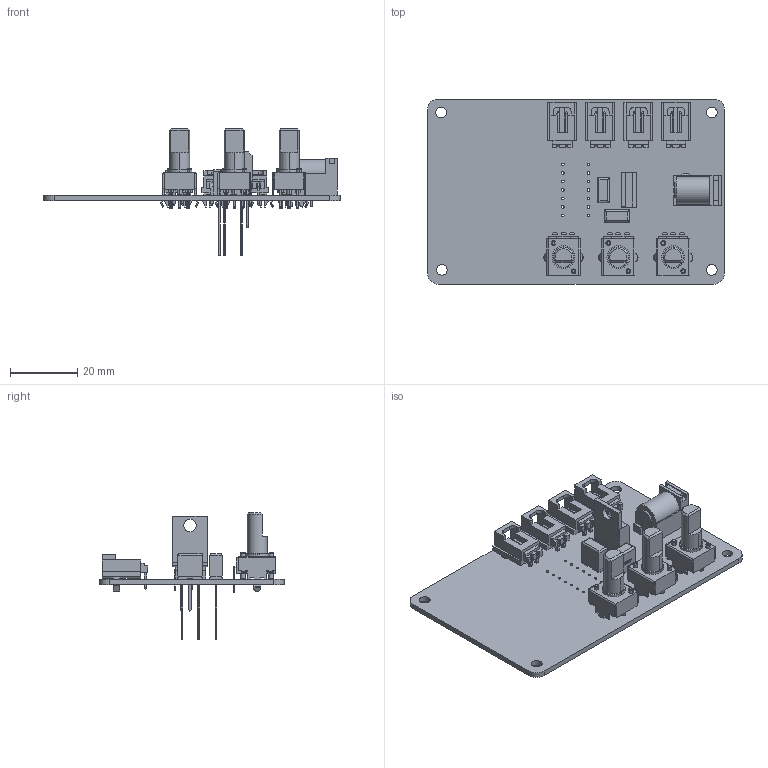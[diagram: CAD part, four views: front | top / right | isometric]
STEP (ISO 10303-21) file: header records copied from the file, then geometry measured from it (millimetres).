
FILE_DESCRIPTION(('KiCad electronic assembly'),'2;1');
FILE_NAME('kraken-pwm-controller.step','2024-07-29T20:28:34',('Pcbnew'), ('Kicad'),'Open CASCADE STEP processor 7.6','KiCad to STEP converter', 'Unknown');
FILE_SCHEMA(('AUTOMOTIVE_DESIGN { 1 0 10303 214 1 1 1 1 }'));
Length unit declared in the file: millimetre
Products named in the file (12): kraken-pwm-controller 1; PTV09A-4020F-B104; ptv09a-4x20f-xxxx; 705510001; PJ-102AH; CFR_RB3_7.2X7.5X3.5_L7.4H7.6T3.6S5LL18F0.55; TO-220-3_Vertical; kraken-pwm-controller_PCB
Assembly tree (17 placements, depth 3):
  kraken-pwm-controller 1
    PTV09A-4020F-B104  x3
      ptv09a-4x20f-xxxx
    705510001  x4
      705510001
    PJ-102AH
      PJ-102AH
    CFR_RB3_7.2X7.5X3.5_L7.4H7.6T3.6S5LL18F0.55  x2
      CFR_RB3_7.2X7.5X3.5_L7.4H7.6T3.6S5LL18F0.55
    TO-220-3_Vertical
      TO-220-3_Vertical
    kraken-pwm-controller_PCB
Bounding box: 88.65 x 55.07 x 37.85 mm (x, y, z)
Volume: 13001 mm3; surface area: 19629 mm2
Topology: 25 solids, 31 shells, 1753 faces, 4703 edges, 3069 vertices
Faces by surface type: plane 1374, cylinder 344, bspline 24, cone 8, torus 3
Full cylindrical faces by diameter (mm): 0.787 x14, 0.813 x4, 1.1 x3, 1.168 x8, 1.2 x9, 2.973 x6, 3.2 x4, 3.454 x8, 3.735 x1
Entity records: 22356 total; most frequent: CARTESIAN_POINT 3992, ORIENTED_EDGE 3662, DIRECTION 3529, EDGE_CURVE 1831, LINE 1461, VECTOR 1461, VERTEX_POINT 1205, AXIS2_PLACEMENT_3D 1034
